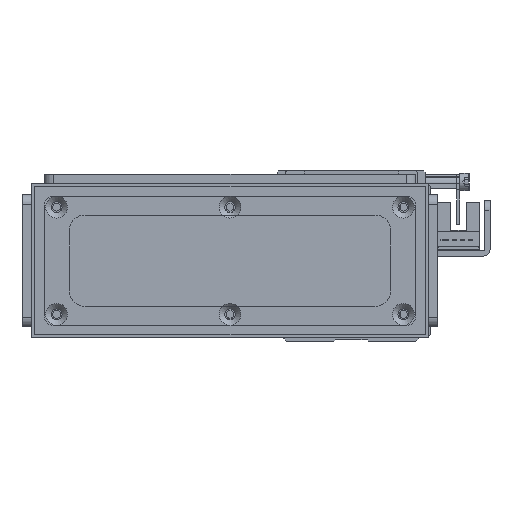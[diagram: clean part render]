
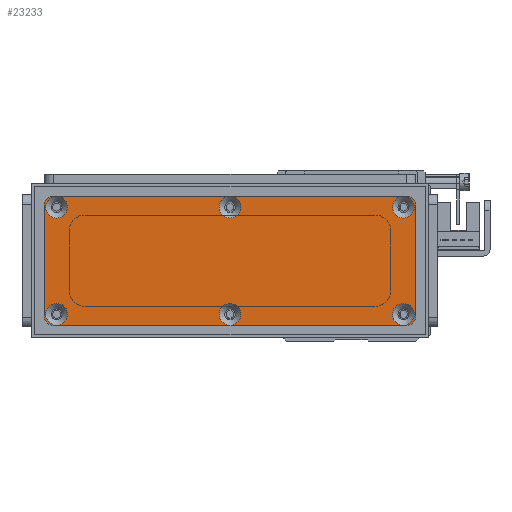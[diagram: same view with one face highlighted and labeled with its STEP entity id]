
A CAD part, front view. The second image highlights one B-rep face of the part: STEP entity #23233.
In plain terms, the highlighted planar face has unit normal (0, -1, 0) as drawn and (0, 0, 1) by its records, which use the part's own axes.
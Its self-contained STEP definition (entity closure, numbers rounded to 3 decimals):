
#879=FACE_BOUND('',#4235,.T.);
#880=FACE_BOUND('',#4236,.T.);
#881=FACE_BOUND('',#4237,.T.);
#882=FACE_BOUND('',#4238,.T.);
#883=FACE_BOUND('',#4239,.T.);
#884=FACE_BOUND('',#4240,.T.);
#1531=PLANE('',#25866);
#2649=FACE_OUTER_BOUND('',#4234,.T.);
#4234=EDGE_LOOP('',(#20642,#20643,#20644,#20645,#20646,#20647,#20648,#20649));
#4235=EDGE_LOOP('',(#20650));
#4236=EDGE_LOOP('',(#20651));
#4237=EDGE_LOOP('',(#20652));
#4238=EDGE_LOOP('',(#20653));
#4239=EDGE_LOOP('',(#20654));
#4240=EDGE_LOOP('',(#20655));
#6315=LINE('',#39800,#8466);
#6319=LINE('',#39812,#8470);
#6323=LINE('',#39824,#8474);
#6327=LINE('',#39834,#8478);
#8466=VECTOR('',#31850,10.);
#8470=VECTOR('',#31862,10.);
#8474=VECTOR('',#31874,10.);
#8478=VECTOR('',#31886,10.);
#9583=CIRCLE('',#25820,3.45);
#9586=CIRCLE('',#25825,3.45);
#9589=CIRCLE('',#25830,3.45);
#9592=CIRCLE('',#25835,3.45);
#9595=CIRCLE('',#25840,3.45);
#9598=CIRCLE('',#25845,3.45);
#9602=CIRCLE('',#25851,3.);
#9604=CIRCLE('',#25855,3.);
#9606=CIRCLE('',#25859,3.);
#9608=CIRCLE('',#25863,3.);
#11586=VERTEX_POINT('',#39728);
#11589=VERTEX_POINT('',#39738);
#11592=VERTEX_POINT('',#39748);
#11595=VERTEX_POINT('',#39758);
#11598=VERTEX_POINT('',#39768);
#11601=VERTEX_POINT('',#39778);
#11606=VERTEX_POINT('',#39791);
#11607=VERTEX_POINT('',#39793);
#11609=VERTEX_POINT('',#39799);
#11611=VERTEX_POINT('',#39805);
#11613=VERTEX_POINT('',#39811);
#11615=VERTEX_POINT('',#39817);
#11617=VERTEX_POINT('',#39823);
#11619=VERTEX_POINT('',#39829);
#14635=EDGE_CURVE('',#11586,#11586,#9583,.T.);
#14640=EDGE_CURVE('',#11589,#11589,#9586,.T.);
#14645=EDGE_CURVE('',#11592,#11592,#9589,.T.);
#14650=EDGE_CURVE('',#11595,#11595,#9592,.T.);
#14655=EDGE_CURVE('',#11598,#11598,#9595,.T.);
#14660=EDGE_CURVE('',#11601,#11601,#9598,.T.);
#14667=EDGE_CURVE('',#11607,#11606,#9602,.T.);
#14670=EDGE_CURVE('',#11609,#11607,#6315,.T.);
#14673=EDGE_CURVE('',#11611,#11609,#9604,.T.);
#14676=EDGE_CURVE('',#11613,#11611,#6319,.T.);
#14679=EDGE_CURVE('',#11615,#11613,#9606,.T.);
#14682=EDGE_CURVE('',#11617,#11615,#6323,.T.);
#14685=EDGE_CURVE('',#11619,#11617,#9608,.T.);
#14688=EDGE_CURVE('',#11606,#11619,#6327,.T.);
#20642=ORIENTED_EDGE('',*,*,#14688,.T.);
#20643=ORIENTED_EDGE('',*,*,#14685,.T.);
#20644=ORIENTED_EDGE('',*,*,#14682,.T.);
#20645=ORIENTED_EDGE('',*,*,#14679,.T.);
#20646=ORIENTED_EDGE('',*,*,#14676,.T.);
#20647=ORIENTED_EDGE('',*,*,#14673,.T.);
#20648=ORIENTED_EDGE('',*,*,#14670,.T.);
#20649=ORIENTED_EDGE('',*,*,#14667,.T.);
#20650=ORIENTED_EDGE('',*,*,#14635,.T.);
#20651=ORIENTED_EDGE('',*,*,#14640,.T.);
#20652=ORIENTED_EDGE('',*,*,#14645,.T.);
#20653=ORIENTED_EDGE('',*,*,#14650,.T.);
#20654=ORIENTED_EDGE('',*,*,#14655,.T.);
#20655=ORIENTED_EDGE('',*,*,#14660,.T.);
#23233=ADVANCED_FACE('',(#2649,#879,#880,#881,#882,#883,#884),#1531,.T.);
#25820=AXIS2_PLACEMENT_3D('',#39729,#31769,#31770);
#25825=AXIS2_PLACEMENT_3D('',#39739,#31781,#31782);
#25830=AXIS2_PLACEMENT_3D('',#39749,#31793,#31794);
#25835=AXIS2_PLACEMENT_3D('',#39759,#31805,#31806);
#25840=AXIS2_PLACEMENT_3D('',#39769,#31817,#31818);
#25845=AXIS2_PLACEMENT_3D('',#39779,#31829,#31830);
#25851=AXIS2_PLACEMENT_3D('',#39794,#31844,#31845);
#25855=AXIS2_PLACEMENT_3D('',#39806,#31856,#31857);
#25859=AXIS2_PLACEMENT_3D('',#39818,#31868,#31869);
#25863=AXIS2_PLACEMENT_3D('',#39830,#31880,#31881);
#25866=AXIS2_PLACEMENT_3D('',#39836,#31889,#31890);
#31769=DIRECTION('center_axis',(0.,0.,-1.));
#31770=DIRECTION('ref_axis',(1.,0.,0.));
#31781=DIRECTION('center_axis',(0.,0.,-1.));
#31782=DIRECTION('ref_axis',(1.,0.,0.));
#31793=DIRECTION('center_axis',(0.,0.,-1.));
#31794=DIRECTION('ref_axis',(1.,0.,0.));
#31805=DIRECTION('center_axis',(0.,0.,-1.));
#31806=DIRECTION('ref_axis',(1.,0.,0.));
#31817=DIRECTION('center_axis',(0.,0.,-1.));
#31818=DIRECTION('ref_axis',(1.,0.,0.));
#31829=DIRECTION('center_axis',(0.,0.,-1.));
#31830=DIRECTION('ref_axis',(1.,0.,0.));
#31844=DIRECTION('center_axis',(0.,0.,1.));
#31845=DIRECTION('ref_axis',(-1.,0.,0.));
#31850=DIRECTION('',(0.,1.,0.));
#31856=DIRECTION('center_axis',(0.,0.,1.));
#31857=DIRECTION('ref_axis',(0.,1.,0.));
#31862=DIRECTION('',(1.,0.,0.));
#31868=DIRECTION('center_axis',(0.,0.,1.));
#31869=DIRECTION('ref_axis',(1.,0.,0.));
#31874=DIRECTION('',(0.,-1.,0.));
#31880=DIRECTION('center_axis',(0.,0.,1.));
#31881=DIRECTION('ref_axis',(0.,-1.,0.));
#31886=DIRECTION('',(-1.,0.,0.));
#31889=DIRECTION('center_axis',(0.,0.,1.));
#31890=DIRECTION('ref_axis',(1.,0.,0.));
#39728=CARTESIAN_POINT('',(110.55,3.5,3.));
#39729=CARTESIAN_POINT('Origin',(114.,3.5,3.));
#39738=CARTESIAN_POINT('',(55.55,37.5,3.));
#39739=CARTESIAN_POINT('Origin',(59.,37.5,3.));
#39748=CARTESIAN_POINT('',(55.55,3.5,3.));
#39749=CARTESIAN_POINT('Origin',(59.,3.5,3.));
#39758=CARTESIAN_POINT('',(0.55,37.5,3.));
#39759=CARTESIAN_POINT('Origin',(4.,37.5,3.));
#39768=CARTESIAN_POINT('',(110.55,37.5,3.));
#39769=CARTESIAN_POINT('Origin',(114.,37.5,3.));
#39778=CARTESIAN_POINT('',(0.55,3.5,3.));
#39779=CARTESIAN_POINT('Origin',(4.,3.5,3.));
#39791=CARTESIAN_POINT('',(115.,41.,3.));
#39793=CARTESIAN_POINT('',(118.,38.,3.));
#39794=CARTESIAN_POINT('Origin',(115.,38.,3.));
#39799=CARTESIAN_POINT('',(118.,3.,3.));
#39800=CARTESIAN_POINT('',(118.,38.,3.));
#39805=CARTESIAN_POINT('',(115.,0.,3.));
#39806=CARTESIAN_POINT('Origin',(115.,3.,3.));
#39811=CARTESIAN_POINT('',(3.,0.,3.));
#39812=CARTESIAN_POINT('',(115.,0.,3.));
#39817=CARTESIAN_POINT('',(0.,3.,3.));
#39818=CARTESIAN_POINT('Origin',(3.,3.,3.));
#39823=CARTESIAN_POINT('',(0.,38.,3.));
#39824=CARTESIAN_POINT('',(0.,3.,3.));
#39829=CARTESIAN_POINT('',(3.,41.,3.));
#39830=CARTESIAN_POINT('Origin',(3.,38.,3.));
#39834=CARTESIAN_POINT('',(3.,41.,3.));
#39836=CARTESIAN_POINT('Origin',(59.,20.5,3.));
